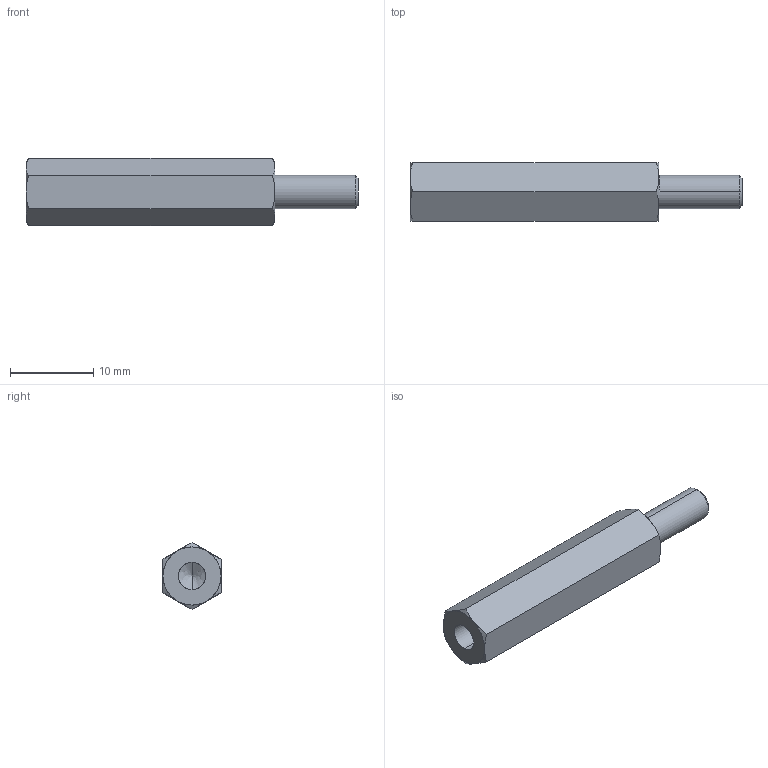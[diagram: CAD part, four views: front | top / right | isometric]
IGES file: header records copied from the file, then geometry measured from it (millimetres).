
Start section: SolidWorks IGES file using analytic representation for surfaces
Global section: file name: C:\Users\render1\Desktop\P0185_IGES\P0185.04-30.igs; native system: SolidWorks 2009; preprocessor: SolidWorks 2009; author: render1; date: 130627.112129; units: millimetre
Bounding box: 40 x 7 x 8.08 mm (x, y, z)
Surface area: 1036.3 mm2 (no closed solid volume)
Topology: 0 solids, 0 shells, 29 faces, 320 edges, 318 vertices
Faces by surface type: revolution 20, bspline 9
